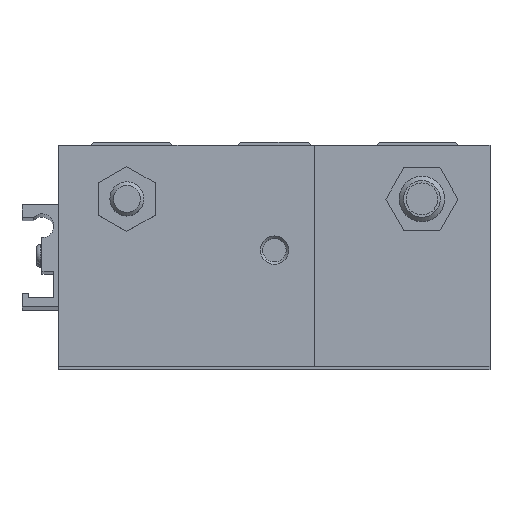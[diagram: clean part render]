
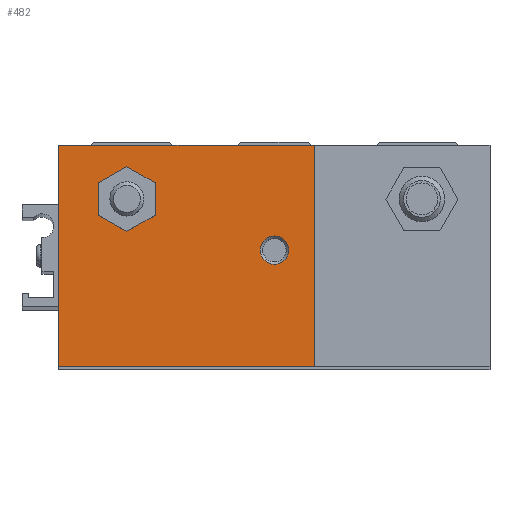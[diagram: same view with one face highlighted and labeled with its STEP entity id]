
A CAD part, top view. The second image highlights one B-rep face of the part: STEP entity #482.
In plain terms, the highlighted planar face has unit normal (0, 0, 1) as drawn and (0, 0, -1) by its records, which use the part's own axes.
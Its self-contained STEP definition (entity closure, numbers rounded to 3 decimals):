
#482 = ADVANCED_FACE( '', ( #1084, #1085, #1086 ), #1087, .F. );
#1084 = FACE_BOUND( '', #1800, .T. );
#1085 = FACE_BOUND( '', #1801, .T. );
#1086 = FACE_OUTER_BOUND( '', #1802, .T. );
#1087 = PLANE( '', #1803 );
#1800 = EDGE_LOOP( '', ( #2874, #2875, #2876, #2877, #2878, #2879 ) );
#1801 = EDGE_LOOP( '', ( #2880 ) );
#1802 = EDGE_LOOP( '', ( #2881, #2882, #2883, #2884 ) );
#1803 = AXIS2_PLACEMENT_3D( '', #2885, #2886, #2887 );
#2874 = ORIENTED_EDGE( '', *, *, #3498, .T. );
#2875 = ORIENTED_EDGE( '', *, *, #3825, .T. );
#2876 = ORIENTED_EDGE( '', *, *, #3682, .T. );
#2877 = ORIENTED_EDGE( '', *, *, #3826, .T. );
#2878 = ORIENTED_EDGE( '', *, *, #3827, .T. );
#2879 = ORIENTED_EDGE( '', *, *, #3493, .T. );
#2880 = ORIENTED_EDGE( '', *, *, #3828, .T. );
#2881 = ORIENTED_EDGE( '', *, *, #3699, .T. );
#2882 = ORIENTED_EDGE( '', *, *, #3829, .F. );
#2883 = ORIENTED_EDGE( '', *, *, #3830, .F. );
#2884 = ORIENTED_EDGE( '', *, *, #3764, .T. );
#2885 = CARTESIAN_POINT( '', ( 7., 39., -329.5 ) );
#2886 = DIRECTION( '', ( 0., 0., 1. ) );
#2887 = DIRECTION( '', ( 1., 0., 0. ) );
#3493 = EDGE_CURVE( '', #4001, #4002, #4003, .T. );
#3498 = EDGE_CURVE( '', #4002, #4010, #4011, .T. );
#3682 = EDGE_CURVE( '', #4312, #4313, #4314, .T. );
#3699 = EDGE_CURVE( '', #4339, #4340, #4341, .T. );
#3764 = EDGE_CURVE( '', #4441, #4339, #4442, .T. );
#3825 = EDGE_CURVE( '', #4010, #4312, #4532, .T. );
#3826 = EDGE_CURVE( '', #4313, #4533, #4534, .T. );
#3827 = EDGE_CURVE( '', #4533, #4001, #4535, .T. );
#3828 = EDGE_CURVE( '', #4536, #4536, #4537, .T. );
#3829 = EDGE_CURVE( '', #4538, #4340, #4539, .T. );
#3830 = EDGE_CURVE( '', #4441, #4538, #4540, .T. );
#4001 = VERTEX_POINT( '', #4751 );
#4002 = VERTEX_POINT( '', #4752 );
#4003 = LINE( '', #4753, #4754 );
#4010 = VERTEX_POINT( '', #4764 );
#4011 = LINE( '', #4765, #4766 );
#4312 = VERTEX_POINT( '', #5139 );
#4313 = VERTEX_POINT( '', #5140 );
#4314 = LINE( '', #5141, #5142 );
#4339 = VERTEX_POINT( '', #5169 );
#4340 = VERTEX_POINT( '', #5170 );
#4341 = LINE( '', #5171, #5172 );
#4441 = VERTEX_POINT( '', #5297 );
#4442 = LINE( '', #5298, #5299 );
#4532 = LINE( '', #5412, #5413 );
#4533 = VERTEX_POINT( '', #5414 );
#4534 = LINE( '', #5415, #5416 );
#4535 = LINE( '', #5417, #5418 );
#4536 = VERTEX_POINT( '', #5419 );
#4537 = CIRCLE( '', #5420, 2.5 );
#4538 = VERTEX_POINT( '', #5421 );
#4539 = LINE( '', #5422, #5423 );
#4540 = LINE( '', #5424, #5425 );
#4751 = CARTESIAN_POINT( '', ( -21.05, 6.642, -329.5 ) );
#4752 = CARTESIAN_POINT( '', ( -21.05, 12.358, -329.5 ) );
#4753 = CARTESIAN_POINT( '', ( -21.05, 6.642, -329.5 ) );
#4754 = VECTOR( '', #5668, 1000. );
#4764 = CARTESIAN_POINT( '', ( -26., 15.216, -329.5 ) );
#4765 = CARTESIAN_POINT( '', ( -21.05, 12.358, -329.5 ) );
#4766 = VECTOR( '', #5672, 1000. );
#5139 = CARTESIAN_POINT( '', ( -30.95, 12.358, -329.5 ) );
#5140 = CARTESIAN_POINT( '', ( -30.95, 6.642, -329.5 ) );
#5141 = CARTESIAN_POINT( '', ( -30.95, 12.358, -329.5 ) );
#5142 = VECTOR( '', #5925, 1000. );
#5169 = CARTESIAN_POINT( '', ( 7., 0., -329.5 ) );
#5170 = CARTESIAN_POINT( '', ( -38., 0., -329.5 ) );
#5171 = CARTESIAN_POINT( '', ( 7., 0., -329.5 ) );
#5172 = VECTOR( '', #5952, 1000. );
#5297 = CARTESIAN_POINT( '', ( 7., 39., -329.5 ) );
#5298 = CARTESIAN_POINT( '', ( 7., 39., -329.5 ) );
#5299 = VECTOR( '', #6038, 1000. );
#5412 = CARTESIAN_POINT( '', ( -26., 15.216, -329.5 ) );
#5413 = VECTOR( '', #6104, 1000. );
#5414 = CARTESIAN_POINT( '', ( -26., 3.784, -329.5 ) );
#5415 = CARTESIAN_POINT( '', ( -30.95, 6.642, -329.5 ) );
#5416 = VECTOR( '', #6105, 1000. );
#5417 = CARTESIAN_POINT( '', ( -26., 3.784, -329.5 ) );
#5418 = VECTOR( '', #6106, 1000. );
#5419 = CARTESIAN_POINT( '', ( 2.5, 18.5, -329.5 ) );
#5420 = AXIS2_PLACEMENT_3D( '', #6107, #6108, #6109 );
#5421 = CARTESIAN_POINT( '', ( -38., 39., -329.5 ) );
#5422 = CARTESIAN_POINT( '', ( -38., 39., -329.5 ) );
#5423 = VECTOR( '', #6110, 1000. );
#5424 = CARTESIAN_POINT( '', ( 7., 39., -329.5 ) );
#5425 = VECTOR( '', #6111, 1000. );
#5668 = DIRECTION( '', ( 0., 1., 0. ) );
#5672 = DIRECTION( '', ( -0.866, 0.5, 0. ) );
#5925 = DIRECTION( '', ( 0., -1., 0. ) );
#5952 = DIRECTION( '', ( -1., 0., 0. ) );
#6038 = DIRECTION( '', ( 0., -1., 0. ) );
#6104 = DIRECTION( '', ( -0.866, -0.5, 0. ) );
#6105 = DIRECTION( '', ( 0.866, -0.5, 0. ) );
#6106 = DIRECTION( '', ( 0.866, 0.5, 0. ) );
#6107 = CARTESIAN_POINT( '', ( 0., 18.5, -329.5 ) );
#6108 = DIRECTION( '', ( 0., 0., 1. ) );
#6109 = DIRECTION( '', ( 1., 0., 0. ) );
#6110 = DIRECTION( '', ( 0., -1., 0. ) );
#6111 = DIRECTION( '', ( -1., 0., 0. ) );
